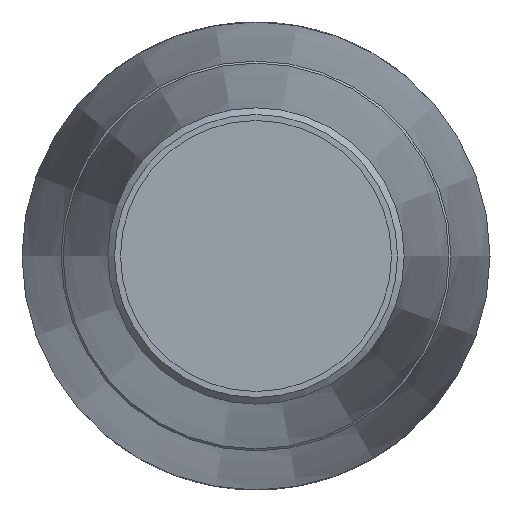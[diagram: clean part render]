
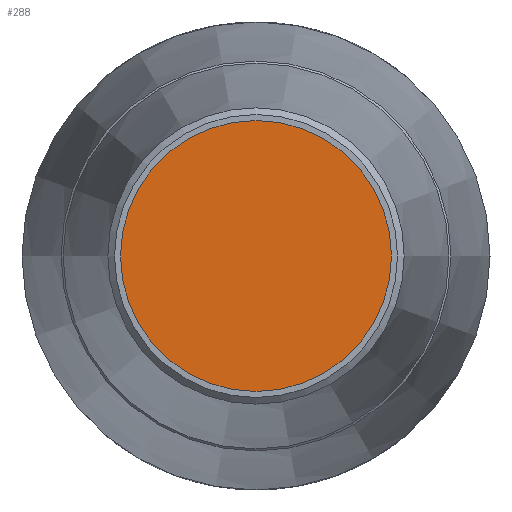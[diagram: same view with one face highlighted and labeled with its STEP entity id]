
A CAD part, left-side view. The second image highlights one B-rep face of the part: STEP entity #288.
In plain terms, the highlighted planar face has unit normal (-1, 0, 0).
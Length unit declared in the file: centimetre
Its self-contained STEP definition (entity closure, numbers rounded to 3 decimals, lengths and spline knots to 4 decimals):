
#42=PLANE('',#323);
#73=FACE_OUTER_BOUND('',#104,.T.);
#104=EDGE_LOOP('',(#210));
#132=CIRCLE('',#322,2.2);
#148=VERTEX_POINT('',#455);
#172=EDGE_CURVE('',#148,#148,#132,.T.);
#210=ORIENTED_EDGE('',*,*,#172,.T.);
#288=ADVANCED_FACE('',(#73),#42,.T.);
#322=AXIS2_PLACEMENT_3D('',#456,#383,#384);
#323=AXIS2_PLACEMENT_3D('',#457,#385,#386);
#383=DIRECTION('center_axis',(-1.,0.,0.));
#384=DIRECTION('ref_axis',(0.,0.,1.));
#385=DIRECTION('center_axis',(-1.,0.,0.));
#386=DIRECTION('ref_axis',(0.,0.,1.));
#455=CARTESIAN_POINT('',(-21.55,-2.2,0.));
#456=CARTESIAN_POINT('Origin',(-21.55,0.,0.));
#457=CARTESIAN_POINT('Origin',(-21.55,0.,0.));
